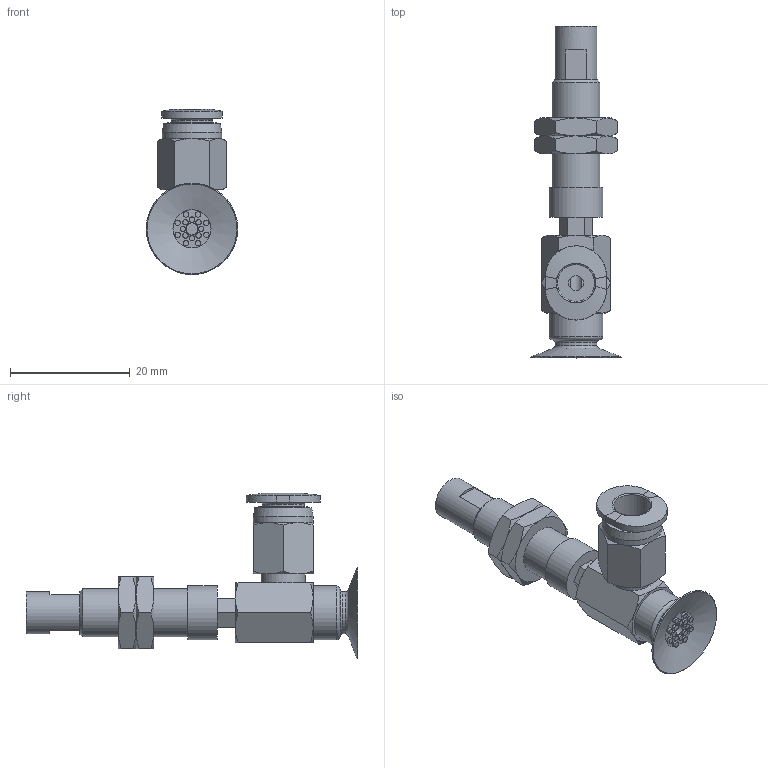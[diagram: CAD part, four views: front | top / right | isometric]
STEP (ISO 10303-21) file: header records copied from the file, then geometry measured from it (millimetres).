
FILE_DESCRIPTION(('STEP AP203'),'1');
FILE_NAME('-O.stp','2025-03-13T03:01:55',(' '),(' '),'Spatial InterOp 3D',' ',' ');
FILE_SCHEMA(('CONFIG_CONTROL_DESIGN'));
Length unit declared in the file: millimetre
Products named in the file (7): BNABPAYH-15A-3-※-O; NAPATH-10A-3--M; NAPATH-10A-3--F; Nut-10A-S; CONNECTOR-10A-3-PA; PC-C_06-M5; BPAG-15A-※
Assembly tree (7 placements, depth 2):
  BNABPAYH-15A-3-※-O
    NAPATH-10A-3--M
    NAPATH-10A-3--F
    Nut-10A-S  x2
    CONNECTOR-10A-3-PA
    PC-C_06-M5
    BPAG-15A-※
Bounding box: 15.3 x 55.5 x 27.63 mm (x, y, z)
Volume: 4218.2 mm3; surface area: 5394.6 mm2
Topology: 7 solids, 7 shells, 221 faces, 447 edges, 274 vertices
Faces by surface type: plane 96, cone 66, cylinder 41, torus 11, bspline 4, revolution 3
Full cylindrical faces by diameter (mm): 0.9 x16, 2 x2, 4 x4, 4.134 x2, 5 x2, 6 x2, 7 x3, 7.188 x2, 7.4 x1, 8 x1, 8.2 x1, 9 x2, 10 x1
Entity records: 5564 total; most frequent: CARTESIAN_POINT 1475, DIRECTION 781, ORIENTED_EDGE 648, AXIS2_PLACEMENT_3D 344, EDGE_CURVE 324, EDGE_LOOP 306, FACE_OUTER_BOUND 247, VERTEX_POINT 236
